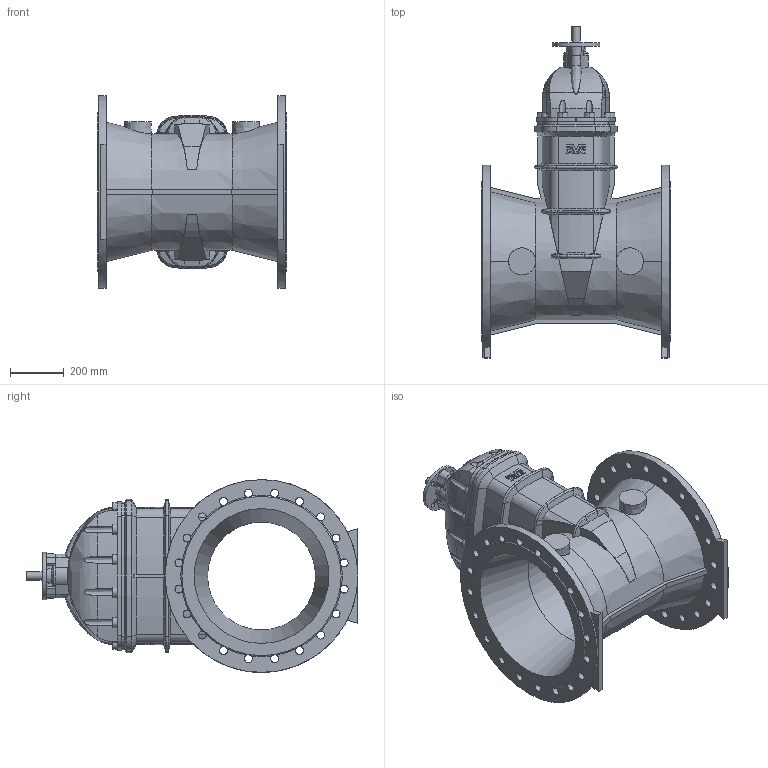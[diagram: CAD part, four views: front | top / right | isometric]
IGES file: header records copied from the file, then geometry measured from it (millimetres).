
Start section: SolidWorks IGES file using analytic representation for surfaces
Global section: file name: D:\Arthur\For Will\Finished\O_15_72_DN500 without AUMA\O_15_72_DN500_00_iges.IGS; native system: SolidWorks 2012; preprocessor: SolidWorks 2012; author: aran; date: 150608.161231; units: millimetre
Bounding box: 700 x 1230.5 x 715 mm (x, y, z)
Surface area: 3963011.6 mm2 (no closed solid volume)
Topology: 0 solids, 0 shells, 493 faces, 2952 edges, 2884 vertices
Faces by surface type: revolution 306, bspline 187
